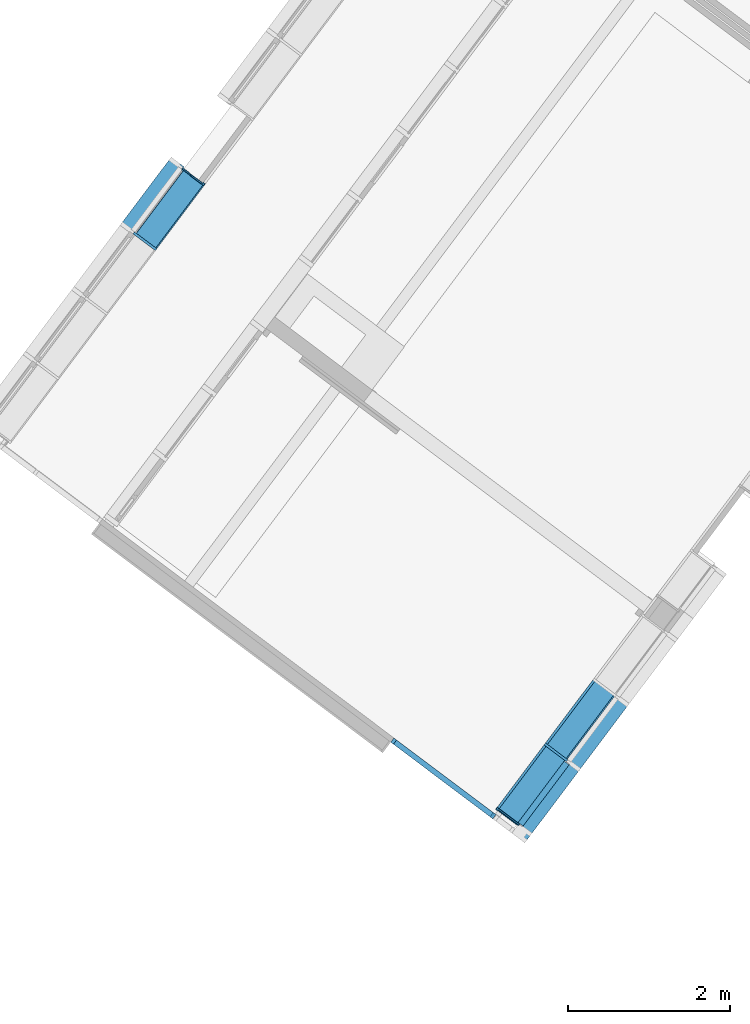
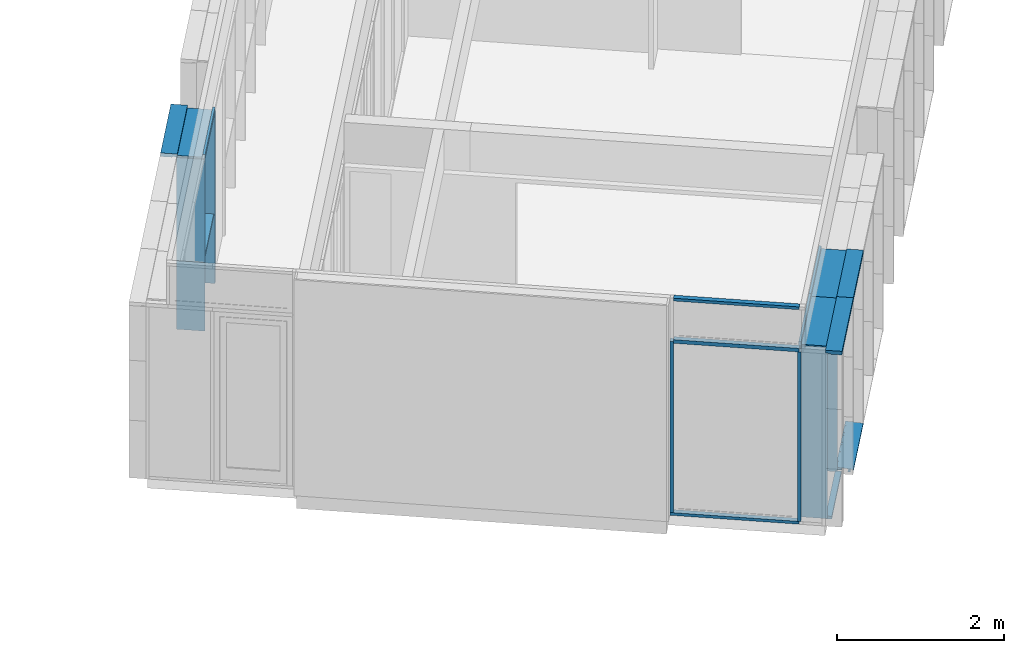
# One storey, part 5 of 243: 20 members, 5 elements without a shape of their own.
"""IFC2X3 building model written with IfcOpenShell, lengths in metres."""

from ifc_helpers import new_model, entity, si_unit, converted_unit, derived_unit, direction, frame, frame_2d, origin, origin_2d_with_axis, place, context, subcontext, project, spatial, polyline, circle_curve, parameter, trimmed, segment, composite_curve, rectangle, outline, extrude, source, transform, mapped, material, type_object, type_shapes, element, aggregate, save


model = new_model("IFC2X3")

# Units and contexts
model_context = context("Model", 3, precision=1e-05, world=origin(), true_north=direction((6.123031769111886e-17, 1.0)))
body_context = subcontext(model_context, "Body", "Model", "MODEL_VIEW")
ifc_project = project(units=[si_unit("LENGTHUNIT", "METRE"), si_unit("AREAUNIT", "SQUARE_METRE"), si_unit("VOLUMEUNIT", "CUBIC_METRE"), converted_unit("PLANEANGLEUNIT", "DEGREE", entity("IfcRatioMeasure", 0.017453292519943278), si_unit("PLANEANGLEUNIT", "RADIAN"), dimensions=[0, 0, 0, 0, 0, 0, 0]), si_unit("MASSUNIT", "GRAM", prefix="KILO"), derived_unit("MASSDENSITYUNIT", [(si_unit("MASSUNIT", "GRAM", prefix="KILO"), 1), (si_unit("LENGTHUNIT", "METRE"), -3)]), derived_unit("IONCONCENTRATIONUNIT", [(si_unit("MASSUNIT", "GRAM", prefix="KILO"), 1), (si_unit("LENGTHUNIT", "METRE"), -3)]), derived_unit("MOMENTOFINERTIAUNIT", [(si_unit("LENGTHUNIT", "METRE"), 4)]), si_unit("TIMEUNIT", "SECOND"), si_unit("FREQUENCYUNIT", "HERTZ"), si_unit("THERMODYNAMICTEMPERATUREUNIT", "DEGREE_CELSIUS"), derived_unit("THERMALTRANSMITTANCEUNIT", [(si_unit("MASSUNIT", "GRAM", prefix="KILO"), 1), (si_unit("THERMODYNAMICTEMPERATUREUNIT", "KELVIN"), -1), (si_unit("TIMEUNIT", "SECOND"), -3)]), derived_unit("THERMALCONDUCTANCEUNIT", [(si_unit("MASSUNIT", "GRAM", prefix="KILO"), 1), (si_unit("THERMODYNAMICTEMPERATUREUNIT", "KELVIN"), -1), (si_unit("TIMEUNIT", "SECOND"), -3), (si_unit("LENGTHUNIT", "METRE"), 1)]), derived_unit("VOLUMETRICFLOWRATEUNIT", [(si_unit("LENGTHUNIT", "METRE"), 3), (si_unit("TIMEUNIT", "SECOND"), -1)]), derived_unit("MASSFLOWRATEUNIT", [(si_unit("MASSUNIT", "GRAM", prefix="KILO"), 1), (si_unit("TIMEUNIT", "SECOND"), -1)]), derived_unit("ROTATIONALFREQUENCYUNIT", [(si_unit("TIMEUNIT", "SECOND"), -1)]), si_unit("ELECTRICCURRENTUNIT", "AMPERE"), si_unit("ELECTRICVOLTAGEUNIT", "VOLT"), si_unit("POWERUNIT", "WATT"), si_unit("FORCEUNIT", "NEWTON", prefix="KILO"), si_unit("ILLUMINANCEUNIT", "LUX"), si_unit("LUMINOUSFLUXUNIT", "LUMEN"), si_unit("LUMINOUSINTENSITYUNIT", "CANDELA"), derived_unit("USERDEFINED", [(si_unit("MASSUNIT", "GRAM", prefix="KILO"), -1), (si_unit("LENGTHUNIT", "METRE"), -2), (si_unit("TIMEUNIT", "SECOND"), 3), (si_unit("LUMINOUSFLUXUNIT", "LUMEN"), 1)]), derived_unit("USERDEFINED", [(si_unit("MASSUNIT", "GRAM", prefix="KILO"), 1), (si_unit("TIMEUNIT", "SECOND"), -3), (si_unit("LENGTHUNIT", "METRE"), 3), (si_unit("ELECTRICCURRENTUNIT", "AMPERE"), -2)]), derived_unit("SOUNDPOWERUNIT", [(si_unit("MASSUNIT", "GRAM", prefix="KILO"), 1), (si_unit("TIMEUNIT", "SECOND"), -3), (si_unit("LENGTHUNIT", "METRE"), 2)]), derived_unit("SOUNDPRESSUREUNIT", [(si_unit("MASSUNIT", "GRAM", prefix="KILO"), 1), (si_unit("LENGTHUNIT", "METRE"), -1), (si_unit("TIMEUNIT", "SECOND"), -2)]), derived_unit("LINEARVELOCITYUNIT", [(si_unit("LENGTHUNIT", "METRE"), 1), (si_unit("TIMEUNIT", "SECOND"), -1)]), si_unit("PRESSUREUNIT", "PASCAL"), derived_unit("USERDEFINED", [(si_unit("MASSUNIT", "GRAM", prefix="KILO"), 1), (si_unit("LENGTHUNIT", "METRE"), -2), (si_unit("TIMEUNIT", "SECOND"), -2)]), derived_unit("LINEARFORCEUNIT", [(si_unit("MASSUNIT", "GRAM", prefix="KILO"), 1), (si_unit("TIMEUNIT", "SECOND"), -2)]), derived_unit("PLANARFORCEUNIT", [(si_unit("MASSUNIT", "GRAM", prefix="KILO"), 1), (si_unit("LENGTHUNIT", "METRE"), -1), (si_unit("TIMEUNIT", "SECOND"), -2)]), derived_unit("SPECIFICHEATCAPACITYUNIT", [(si_unit("THERMODYNAMICTEMPERATUREUNIT", "KELVIN"), -1), (si_unit("LENGTHUNIT", "METRE"), 2), (si_unit("TIMEUNIT", "SECOND"), -2)]), derived_unit("HEATINGVALUEUNIT", [(si_unit("LENGTHUNIT", "METRE"), 2), (si_unit("TIMEUNIT", "SECOND"), -2)]), derived_unit("VAPORPERMEABILITYUNIT", [(si_unit("LENGTHUNIT", "METRE"), -1), (si_unit("TIMEUNIT", "SECOND"), 1)]), derived_unit("DYNAMICVISCOSITYUNIT", [(si_unit("MASSUNIT", "GRAM", prefix="KILO"), 1), (si_unit("TIMEUNIT", "SECOND"), -1), (si_unit("LENGTHUNIT", "METRE"), -1)]), derived_unit("THERMALEXPANSIONCOEFFICIENTUNIT", [(si_unit("THERMODYNAMICTEMPERATUREUNIT", "KELVIN"), -1)]), derived_unit("MODULUSOFELASTICITYUNIT", [(si_unit("MASSUNIT", "GRAM", prefix="KILO"), 1), (si_unit("LENGTHUNIT", "METRE"), -1), (si_unit("TIMEUNIT", "SECOND"), -2)]), derived_unit("ISOTHERMALMOISTURECAPACITYUNIT", [(si_unit("LENGTHUNIT", "METRE"), 3), (si_unit("MASSUNIT", "GRAM", prefix="KILO"), -1)]), derived_unit("MOISTUREDIFFUSIVITYUNIT", [(si_unit("TIMEUNIT", "SECOND"), -1), (si_unit("LENGTHUNIT", "METRE"), 2)])], contexts=[model_context])

# Site, building, storey
site_placement = place(None, frame((0.0, 0.0, 235.0), z_axis=(0.0, 0.0, 1.0), x_axis=(-0.7996477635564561, 0.6004693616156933, 0.0)))
site = spatial("IfcSite", under=ifc_project, at=site_placement, Name="Default", CompositionType="ELEMENT")
building_placement = place(site_placement, origin())
building = spatial("IfcBuilding", under=site, at=building_placement, CompositionType="ELEMENT")
storey_placement = place(building_placement, origin())
storey = spatial("IfcBuildingStorey", under=building, at=storey_placement, Name="P0- Escola", CompositionType="ELEMENT", Elevation=0.0)

# Curtain wall, members
curtain_wall_type_1 = type_object("IfcCurtainWallType", Name="Muro cortina:MC- EXT- MC2", PredefinedType="NOTDEFINED")
curtain_wall_1_placement = place(storey_placement, origin())
curtain_wall_1 = element("IfcCurtainWall", 1, at=curtain_wall_1_placement, inside=storey, type_object=curtain_wall_type_1, Name="Muro cortina:MC- EXT- MC2", ObjectType="Muro cortina:MC- EXT- MC2")
ifc_material_1 = material(Name="_Alumini- T1- Perfil")
member_type_1 = type_object("IfcMemberType", Name="Montante rectangular:MC- Alu- 140x52,5 cm- Fa patis- Superior", PredefinedType="MULLION", material=ifc_material_1)
shared_shape_1 = source(origin(), body_context, "Body", "SweptSolid", [
    extrude(outline(polyline([(-0.11366666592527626, -0.021249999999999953), (0.026333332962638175, -0.021249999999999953), (0.026333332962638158, -0.010000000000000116), (0.0873333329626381, -0.010000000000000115), (0.0873333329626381, 0.03125000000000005), (-0.11366666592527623, 0.031250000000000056), (-0.11366666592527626, -0.021249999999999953)])), frame((-0.031250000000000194, 0.0273333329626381, -1.0), z_axis=(0.0, 0.0, 1.0), x_axis=(0.0, -1.0, 0.0)), (0.0, 0.0, 1.0), 0.9999999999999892),
])
type_shapes(member_type_1, [shared_shape_1])
member_1_placement = place(curtain_wall_1_placement, frame((41.04514768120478, -22.41519175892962, 2.545), z_axis=(0.0, -1.0, 0.0), x_axis=(0.0, 0.0, 1.0)))
member_1 = element("IfcMember", 2, at=member_1_placement, type_object=member_type_1, material=ifc_material_1, Name="Montante rectangular:MC- Alu- 140x52,5 cm- Fa patis- Superior", ObjectType="Montante rectangular:MC- Alu- 140x52,5 cm- Fa patis- Superior", context=body_context, shape_type="MappedRepresentation", body=[
    mapped(shared_shape_1, transform((0.0, 0.0, 0.0), scale=1.0)),
])
member_type_2 = type_object("IfcMemberType", Name="Montante rectangular:MC- Alu- 140x52,5 cm- Fa patis- inferior", PredefinedType="MULLION", material=ifc_material_1)
shared_shape_2 = source(origin(), body_context, "Body", "SweptSolid", [
    extrude(outline(composite_curve([segment(polyline([(0.1278672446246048, -0.02586710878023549), (0.14416724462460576, -0.025867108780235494)]), True, "CONTINUOUS"), segment(polyline([(0.14416724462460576, -0.025867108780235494), (0.1441672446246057, 0.009132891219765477)]), True, "CONTINUOUS"), segment(polyline([(0.1441672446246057, 0.009132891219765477), (0.06786724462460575, 0.009132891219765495)]), True, "CONTINUOUS"), segment(polyline([(0.06786724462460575, 0.009132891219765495), (0.06786724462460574, -0.021159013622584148)]), True, "CONTINUOUS"), segment(polyline([(0.06786724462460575, -0.02115901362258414), (-0.030132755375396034, -0.012332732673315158)]), True, "CONTINUOUS"), segment(polyline([(-0.03013275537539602, -0.012332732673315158), (-0.030132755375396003, 0.027132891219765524)]), True, "CONTINUOUS"), segment(polyline([(-0.030132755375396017, 0.02713289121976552), (-0.0021327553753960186, 0.02713289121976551)]), True, "CONTINUOUS"), segment(polyline([(-0.0021327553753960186, 0.027132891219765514), (-0.0021327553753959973, 0.029132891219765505)]), True, "CONTINUOUS"), segment(polyline([(-0.0021327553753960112, 0.029132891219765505), (-0.032132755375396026, 0.029132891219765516)]), True, "CONTINUOUS"), segment(polyline([(-0.032132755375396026, 0.029132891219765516), (-0.03213275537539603, -0.012152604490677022)]), True, "CONTINUOUS"), segment(polyline([(-0.03213275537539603, -0.012152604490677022), (-0.0701327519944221, -0.008730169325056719)]), True, "CONTINUOUS"), segment(polyline([(-0.0701327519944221, -0.008730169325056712), (-0.0701327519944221, 0.005766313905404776)]), True, "CONTINUOUS"), segment(trimmed(circle_curve(frame_2d((-0.0696327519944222, 0.0057663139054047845), x_axis=(-1.0, 0.0)), 0.0004999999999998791), [parameter(269.999999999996)], [parameter(0.0)], True, "PARAMETER"), False, "CONTINUOUS"), segment(polyline([(-0.0696327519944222, 0.00626631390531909), (-0.06213275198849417, 0.006266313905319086)]), True, "CONTINUOUS"), segment(polyline([(-0.06213275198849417, 0.006266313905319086), (-0.06213275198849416, 0.008266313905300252)]), True, "CONTINUOUS"), segment(polyline([(-0.06213275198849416, 0.008266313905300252), (-0.07013275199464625, 0.008266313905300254)]), True, "CONTINUOUS"), segment(trimmed(circle_curve(frame_2d((-0.07013275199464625, 0.006266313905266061), x_axis=(0.0, 1.0)), 0.0020000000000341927), [parameter(0.0)], [parameter(90.00000002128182)], True, "PARAMETER"), True, "CONTINUOUS"), segment(polyline([(-0.07213275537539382, 0.006266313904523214), (-0.07213275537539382, -0.008730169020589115)]), True, "CONTINUOUS"), segment(trimmed(circle_curve(frame_2d((-0.07013275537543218, -0.008730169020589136), x_axis=(-1.0, 0.0)), 0.0019999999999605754), [parameter(0.0)], [parameter(84.85359280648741)], True, "PARAMETER"), True, "CONTINUOUS"), segment(polyline([(-0.07031215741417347, -0.01072210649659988), (0.06786724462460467, -0.023167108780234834)]), True, "CONTINUOUS"), segment(polyline([(0.06786724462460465, -0.023167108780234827), (0.12786724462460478, -0.023167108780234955)]), True, "CONTINUOUS"), segment(polyline([(0.12786724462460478, -0.023167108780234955), (0.1278672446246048, -0.02586710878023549)]), True, "CONTINUOUS")], self_intersect=False)), frame((-0.029132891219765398, 0.06786724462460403, -0.9737499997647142), z_axis=(0.0, 0.0, 1.0), x_axis=(0.0, -1.0, 0.0)), (0.0, 0.0, 1.0), 0.9737499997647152),
])
type_shapes(member_type_2, [shared_shape_2])
member_2_placement = place(curtain_wall_1_placement, frame((41.04514768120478, -21.441441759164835, -0.02), z_axis=(0.0, 1.0, 0.0), x_axis=(0.0, 0.0, -1.0)))
member_2 = element("IfcMember", 3, at=member_2_placement, type_object=member_type_2, material=ifc_material_1, Name="Montante rectangular:MC- Alu- 140x52,5 cm- Fa patis- inferior", ObjectType="Montante rectangular:MC- Alu- 140x52,5 cm- Fa patis- inferior", context=body_context, shape_type="MappedRepresentation", body=[
    mapped(shared_shape_2, transform((0.0, 0.0, 0.0), scale=1.0)),
])

curtain_wall_type_2 = type_object("IfcCurtainWallType", Name="Muro cortina:MC- INT- k7- Aules infantil", PredefinedType="NOTDEFINED")
curtain_wall_2_placement = place(storey_placement, origin())
curtain_wall_2 = element("IfcCurtainWall", 4, at=curtain_wall_2_placement, inside=storey, type_object=curtain_wall_type_2, Name="Muro cortina:MC- INT- k7- Aules infantil", ObjectType="Muro cortina:MC- INT- k7- Aules infantil")
ifc_material_2 = material(Name="_Fusta massisa- T1")
member_type_3 = type_object("IfcMemberType", Name="Montante rectangular:MC- Fusta- 35x3 cm- Pati aules- Remat esquerra", PredefinedType="MULLION", material=ifc_material_2)
shared_shape_3 = source(origin(), body_context, "Body", "SweptSolid", [
    extrude(outline(polyline([(-0.22000000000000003, -0.01666666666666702), (0.12500000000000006, -0.01666666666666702), (0.125, 0.013333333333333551), (0.09500000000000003, 0.013333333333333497), (0.09500000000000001, 0.003333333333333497), (-0.22000000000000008, 0.003333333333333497), (-0.22000000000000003, -0.01666666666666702)])), frame((-0.013333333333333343, 0.03000000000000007, -2.504999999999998), z_axis=(0.0, 0.0, 1.0), x_axis=(0.0, -1.0, 0.0)), (0.0, 0.0, 1.0), 2.5049999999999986),
])
type_shapes(member_type_3, [shared_shape_3])
member_3_placement = place(curtain_wall_2_placement, frame((41.34514768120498, -20.405191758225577, 2.5049999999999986), z_axis=(0.0, 0.0, 1.0), x_axis=(0.0, 1.0, 0.0)))
member_3 = element("IfcMember", 5, at=member_3_placement, type_object=member_type_3, material=ifc_material_2, Name="Montante rectangular:MC- Fusta- 35x3 cm- Pati aules- Remat esquerra", ObjectType="Montante rectangular:MC- Fusta- 35x3 cm- Pati aules- Remat esquerra", context=body_context, shape_type="MappedRepresentation", body=[
    mapped(shared_shape_3, transform((0.0, 0.0, 0.0), scale=1.0)),
])
member_type_4 = type_object("IfcMemberType", Name="Montante rectangular:MC- Fusta- 35x3 cm- Pati aules- Remat superior", PredefinedType="MULLION", material=ifc_material_2)
shared_shape_4 = source(origin(), body_context, "Body", "SweptSolid", [
    extrude(outline(polyline([(-0.21333333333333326, -0.02666666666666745), (0.1216666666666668, -0.02666666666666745), (0.12166666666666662, 0.03333333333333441), (0.09166666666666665, 0.03333333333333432), (0.09166666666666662, -0.006666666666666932), (-0.2133333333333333, -0.006666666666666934), (-0.21333333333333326, -0.02666666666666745)])), frame((-0.033333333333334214, 0.026666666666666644, -1.0100000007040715), z_axis=(0.0, 0.0, 1.0), x_axis=(0.0, -1.0, 0.0)), (0.0, 0.0, 1.0), 1.0100000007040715),
])
type_shapes(member_type_4, [shared_shape_4])
member_4_placement = place(curtain_wall_2_placement, frame((41.34514768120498, -21.415191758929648, 2.565), z_axis=(0.0, -1.0, 0.0), x_axis=(0.0, 0.0, 1.0)))
member_4 = element("IfcMember", 6, at=member_4_placement, type_object=member_type_4, material=ifc_material_2, Name="Montante rectangular:MC- Fusta- 35x3 cm- Pati aules- Remat superior", ObjectType="Montante rectangular:MC- Fusta- 35x3 cm- Pati aules- Remat superior", context=body_context, shape_type="MappedRepresentation", body=[
    mapped(shared_shape_4, transform((0.0, 0.0, 0.0), scale=1.0)),
])
member_type_5 = type_object("IfcMemberType", Name="Montante rectangular:MC- Fusta- 35x3 cm- Centre", PredefinedType="MULLION", material=ifc_material_2)
shared_shape_5 = source(origin(), body_context, "Body", "SweptSolid", [
    extrude(rectangle(XDim=0.3450000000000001, YDim=0.030000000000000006, at=frame_2d((0.0, 1.3964523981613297e-16), x_axis=(1.0, 0.0))), frame((0.0, 0.07750000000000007, -2.5049999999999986), z_axis=(0.0, 0.0, 1.0), x_axis=(0.0, -1.0, 0.0)), (0.0, 0.0, 1.0), 2.5049999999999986),
])
type_shapes(member_type_5, [shared_shape_5])
member_5_placement = place(curtain_wall_2_placement, frame((41.34514768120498, -21.415191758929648, 0.0), z_axis=(0.0, 0.0, -1.0), x_axis=(0.0, -1.0, 0.0)))
member_5 = element("IfcMember", 7, at=member_5_placement, type_object=member_type_5, material=ifc_material_2, Name="Montante rectangular:MC- Fusta- 35x3 cm- Centre", ObjectType="Montante rectangular:MC- Fusta- 35x3 cm- Centre", context=body_context, shape_type="MappedRepresentation", body=[
    mapped(shared_shape_5, transform((0.0, 0.0, 0.0), scale=1.0)),
])
member_type_6 = type_object("IfcMemberType", Name="Montante rectangular:MC- Fusta- 35x3 cm- Pati aules- Remat superior", PredefinedType="MULLION", material=ifc_material_2)
shared_shape_6 = source(origin(), body_context, "Body", "SweptSolid", [
    extrude(outline(polyline([(-0.21333333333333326, -0.02666666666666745), (0.1216666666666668, -0.02666666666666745), (0.12166666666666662, 0.03333333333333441), (0.09166666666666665, 0.03333333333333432), (0.09166666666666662, -0.006666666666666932), (-0.2133333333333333, -0.006666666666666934), (-0.21333333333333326, -0.02666666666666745)])), frame((-0.033333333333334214, 0.026666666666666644, -1.0), z_axis=(0.0, 0.0, 1.0), x_axis=(0.0, -1.0, 0.0)), (0.0, 0.0, 1.0), 0.9999999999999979),
])
type_shapes(member_type_6, [shared_shape_6])
member_6_placement = place(curtain_wall_2_placement, frame((41.34514768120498, -22.415191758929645, 2.565), z_axis=(0.0, -1.0, 0.0), x_axis=(0.0, 0.0, 1.0)))
member_6 = element("IfcMember", 8, at=member_6_placement, type_object=member_type_6, material=ifc_material_2, Name="Montante rectangular:MC- Fusta- 35x3 cm- Pati aules- Remat superior", ObjectType="Montante rectangular:MC- Fusta- 35x3 cm- Pati aules- Remat superior", context=body_context, shape_type="MappedRepresentation", body=[
    mapped(shared_shape_6, transform((0.0, 0.0, 0.0), scale=1.0)),
])
aggregate(curtain_wall_2, [member_3, member_4, member_5, member_6])

curtain_wall_type_3 = type_object("IfcCurtainWallType", Name="Muro cortina:MC- INT- k2", PredefinedType="NOTDEFINED")
curtain_wall_3_placement = place(storey_placement, origin())
curtain_wall_3 = element("IfcCurtainWall", 9, at=curtain_wall_3_placement, inside=storey, type_object=curtain_wall_type_3, Name="Muro cortina:MC- INT- k2", ObjectType="Muro cortina:MC- INT- k2")
member_type_7 = type_object("IfcMemberType", Name="Montante rectangular:MC- Fusta- 35x3 cm- Centre", PredefinedType="MULLION", material=ifc_material_2)
shared_shape_7 = source(origin(), body_context, "Body", "SweptSolid", [
    extrude(rectangle(XDim=0.3450000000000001, YDim=0.030000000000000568, at=frame_2d((0.0, -1.3964523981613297e-16), x_axis=(1.0, 0.0))), frame((0.0, -0.07750000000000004, -1.0), z_axis=(0.0, 0.0, 1.0), x_axis=(0.0, -1.0, 0.0)), (0.0, 0.0, 1.0), 1.0),
])
type_shapes(member_type_7, [shared_shape_7])
member_7_placement = place(curtain_wall_3_placement, frame((49.045147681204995, -23.415191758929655, 0.0), z_axis=(0.0, 0.0, -1.0), x_axis=(0.0, -1.0, 0.0)))
member_7 = element("IfcMember", 10, at=member_7_placement, type_object=member_type_7, material=ifc_material_2, Name="Montante rectangular:MC- Fusta- 35x3 cm- Centre", ObjectType="Montante rectangular:MC- Fusta- 35x3 cm- Centre", context=body_context, shape_type="MappedRepresentation", body=[
    mapped(shared_shape_7, transform((0.0, 0.0, 0.0), scale=1.0)),
])
member_type_8 = type_object("IfcMemberType", Name="Montante rectangular:MC- Fusta- 35x3 cm- Pati aules- Remat superior", PredefinedType="MULLION", material=ifc_material_2)
shared_shape_8 = source(origin(), body_context, "Body", "SweptSolid", [
    extrude(outline(polyline([(-0.12166666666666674, -0.02666666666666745), (0.21333333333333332, -0.02666666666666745), (0.2133333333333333, -0.006666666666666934), (-0.09166666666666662, -0.006666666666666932), (-0.09166666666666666, 0.03333333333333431), (-0.12166666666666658, 0.03333333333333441), (-0.12166666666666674, -0.02666666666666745)])), frame((-0.033333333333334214, -0.026666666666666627, -1.0), z_axis=(0.0, 0.0, 1.0), x_axis=(0.0, -1.0, 0.0)), (0.0, 0.0, 1.0), 0.9999999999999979),
])
type_shapes(member_type_8, [shared_shape_8])
member_8_placement = place(curtain_wall_3_placement, frame((49.045147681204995, -24.415191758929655, 2.565), z_axis=(0.0, -1.0, 0.0), x_axis=(0.0, 0.0, 1.0)))
member_8 = element("IfcMember", 11, at=member_8_placement, type_object=member_type_8, material=ifc_material_2, Name="Montante rectangular:MC- Fusta- 35x3 cm- Pati aules- Remat superior", ObjectType="Montante rectangular:MC- Fusta- 35x3 cm- Pati aules- Remat superior", context=body_context, shape_type="MappedRepresentation", body=[
    mapped(shared_shape_8, transform((0.0, 0.0, 0.0), scale=1.0)),
])
member_type_9 = type_object("IfcMemberType", Name="Montante rectangular:MC- Fusta- 35x3 cm- Pati aules- Remat dreta", PredefinedType="MULLION", material=ifc_material_2)
shared_shape_9 = source(origin(), body_context, "Body", "SweptSolid", [
    extrude(outline(polyline([(-0.12500000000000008, -0.01666666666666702), (0.22, -0.01666666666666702), (0.22000000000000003, 0.003333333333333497), (-0.09499999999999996, 0.003333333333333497), (-0.09499999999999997, 0.013333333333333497), (-0.12500000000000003, 0.013333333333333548), (-0.12500000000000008, -0.01666666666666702)])), frame((0.00166666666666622, -0.03000000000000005, -1.0), z_axis=(0.0, 0.0, 1.0), x_axis=(0.0, -1.0, 0.0)), (0.0, 0.0, 1.0), 1.0),
])
type_shapes(member_type_9, [shared_shape_9])
member_9_placement = place(curtain_wall_3_placement, frame((49.045147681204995, -24.415191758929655, 0.0), z_axis=(0.0, 0.0, -1.0), x_axis=(0.0, -1.0, 0.0)))
member_9 = element("IfcMember", 12, at=member_9_placement, type_object=member_type_9, material=ifc_material_2, Name="Montante rectangular:MC- Fusta- 35x3 cm- Pati aules- Remat dreta", ObjectType="Montante rectangular:MC- Fusta- 35x3 cm- Pati aules- Remat dreta", context=body_context, shape_type="MappedRepresentation", body=[
    mapped(shared_shape_9, transform((0.0, 0.0, 0.0), scale=1.0)),
])
member_type_10 = type_object("IfcMemberType", Name="Montante rectangular:MC- Fusta- 35x3 cm- Pati aules- Prestatge", PredefinedType="MULLION", material=ifc_material_2)
shared_shape_10 = source(origin(), body_context, "Body", "SweptSolid", [
    extrude(rectangle(XDim=0.30000000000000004, YDim=0.03000000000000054, at=frame_2d((0.0, -1.231653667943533e-16), x_axis=(1.0, 0.0))), frame((0.0, -0.07000000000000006, -0.9699999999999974), z_axis=(0.0, 0.0, 1.0), x_axis=(0.0, -1.0, 0.0)), (0.0, 0.0, 1.0), 0.969999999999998),
])
type_shapes(member_type_10, [shared_shape_10])
member_10_placement = place(curtain_wall_3_placement, frame((49.045147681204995, -24.400191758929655, 1.0), z_axis=(0.0, -1.0, 0.0), x_axis=(0.0, 0.0, 1.0)))
member_10 = element("IfcMember", 13, at=member_10_placement, type_object=member_type_10, material=ifc_material_2, Name="Montante rectangular:MC- Fusta- 35x3 cm- Pati aules- Prestatge", ObjectType="Montante rectangular:MC- Fusta- 35x3 cm- Pati aules- Prestatge", context=body_context, shape_type="MappedRepresentation", body=[
    mapped(shared_shape_10, transform((0.0, 0.0, 0.0), scale=1.0)),
])
member_type_11 = type_object("IfcMemberType", Name="Montante rectangular:MC- Fusta- 35x3 cm- Centre", PredefinedType="MULLION", material=ifc_material_2)
shared_shape_11 = source(origin(), body_context, "Body", "SweptSolid", [
    extrude(rectangle(XDim=0.3450000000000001, YDim=0.030000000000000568, at=frame_2d((0.0, -1.3964523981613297e-16), x_axis=(1.0, 0.0))), frame((0.0, -0.07750000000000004, -1.504999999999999), z_axis=(0.0, 0.0, 1.0), x_axis=(0.0, -1.0, 0.0)), (0.0, 0.0, 1.0), 1.504999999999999),
])
type_shapes(member_type_11, [shared_shape_11])
member_11_placement = place(curtain_wall_3_placement, frame((49.045147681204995, -23.415191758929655, 1.0), z_axis=(0.0, 0.0, -1.0), x_axis=(0.0, -1.0, 0.0)))
member_11 = element("IfcMember", 14, at=member_11_placement, type_object=member_type_11, material=ifc_material_2, Name="Montante rectangular:MC- Fusta- 35x3 cm- Centre", ObjectType="Montante rectangular:MC- Fusta- 35x3 cm- Centre", context=body_context, shape_type="MappedRepresentation", body=[
    mapped(shared_shape_11, transform((0.0, 0.0, 0.0), scale=1.0)),
])
member_type_12 = type_object("IfcMemberType", Name="Montante rectangular:MC- Fusta- 35x3 cm- Pati aules- Remat dreta", PredefinedType="MULLION", material=ifc_material_2)
shared_shape_12 = source(origin(), body_context, "Body", "SweptSolid", [
    extrude(outline(polyline([(-0.12500000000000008, -0.01666666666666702), (0.22, -0.01666666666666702), (0.22000000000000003, 0.003333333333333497), (-0.09499999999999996, 0.003333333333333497), (-0.09499999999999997, 0.013333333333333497), (-0.12500000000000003, 0.013333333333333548), (-0.12500000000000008, -0.01666666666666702)])), frame((0.00166666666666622, -0.03000000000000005, -1.504999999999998), z_axis=(0.0, 0.0, 1.0), x_axis=(0.0, -1.0, 0.0)), (0.0, 0.0, 1.0), 1.504999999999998),
])
type_shapes(member_type_12, [shared_shape_12])
member_12_placement = place(curtain_wall_3_placement, frame((49.045147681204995, -24.415191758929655, 1.0), z_axis=(0.0, 0.0, -1.0), x_axis=(0.0, -1.0, 0.0)))
member_12 = element("IfcMember", 15, at=member_12_placement, type_object=member_type_12, material=ifc_material_2, Name="Montante rectangular:MC- Fusta- 35x3 cm- Pati aules- Remat dreta", ObjectType="Montante rectangular:MC- Fusta- 35x3 cm- Pati aules- Remat dreta", context=body_context, shape_type="MappedRepresentation", body=[
    mapped(shared_shape_12, transform((0.0, 0.0, 0.0), scale=1.0)),
])
aggregate(curtain_wall_3, [member_7, member_8, member_9, member_10, member_11, member_12])

# Member
member_type_13 = type_object("IfcMemberType", Name="Montante rectangular:MC- Alu- 140x52,5 cm- Fa patis- inferior porta", PredefinedType="MULLION", material=ifc_material_1)
shared_shape_13 = source(origin(), body_context, "Body", "SweptSolid", [
    extrude(rectangle(XDim=0.07629999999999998, YDim=0.04, at=origin_2d_with_axis()), frame((-0.020000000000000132, -0.0381500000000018, -0.9474999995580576), z_axis=(0.0, 0.0, 1.0), x_axis=(0.0, -1.0, 0.0)), (0.0, 0.0, 1.0), 0.9474999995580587),
])
type_shapes(member_type_13, [shared_shape_13])
member_13_placement = place(curtain_wall_1_placement, frame((41.04514768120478, -20.441441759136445, -0.02), z_axis=(0.0, 1.0, 0.0), x_axis=(0.0, 0.0, -1.0)))
member_13 = element("IfcMember", 16, at=member_13_placement, type_object=member_type_13, material=ifc_material_1, Name="Montante rectangular:MC- Alu- 140x52,5 cm- Fa patis- inferior porta", ObjectType="Montante rectangular:MC- Alu- 140x52,5 cm- Fa patis- inferior porta", context=body_context, shape_type="MappedRepresentation", body=[
    mapped(shared_shape_13, transform((0.0, 0.0, 0.0), scale=1.0)),
])

member_type_14 = type_object("IfcMemberType", Name="Montante rectangular:MC- Alu- 140x52,5 cm- Fa patis- Superior", PredefinedType="MULLION", material=ifc_material_1)
shared_shape_14 = source(origin(), body_context, "Body", "SweptSolid", [
    extrude(outline(polyline([(-0.11366666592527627, -0.021249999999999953), (0.02633333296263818, -0.021249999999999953), (0.02633333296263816, -0.010000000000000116), (0.08733333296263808, -0.010000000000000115), (0.08733333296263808, 0.03125000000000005), (-0.11366666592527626, 0.031250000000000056), (-0.11366666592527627, -0.021249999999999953)])), frame((-0.031250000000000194, 0.027333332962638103, -1.1262500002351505), z_axis=(0.0, 0.0, 1.0), x_axis=(0.0, -1.0, 0.0)), (0.0, 0.0, 1.0), 1.1262500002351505),
])
type_shapes(member_type_14, [shared_shape_14])
member_14_placement = place(curtain_wall_1_placement, frame((41.04514768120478, -21.41519175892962, 2.545), z_axis=(0.0, -1.0, 0.0), x_axis=(0.0, 0.0, 1.0)))
member_14 = element("IfcMember", 17, at=member_14_placement, type_object=member_type_14, material=ifc_material_1, Name="Montante rectangular:MC- Alu- 140x52,5 cm- Fa patis- Superior", ObjectType="Montante rectangular:MC- Alu- 140x52,5 cm- Fa patis- Superior", context=body_context, shape_type="MappedRepresentation", body=[
    mapped(shared_shape_14, transform((0.0, 0.0, 0.0), scale=1.0)),
])

aggregate(curtain_wall_1, [member_13, member_14, member_2, member_1])

# Curtain wall, member
curtain_wall_type_4 = type_object("IfcCurtainWallType", Name="Muro cortina:MC- EXT- MC5", PredefinedType="NOTDEFINED")
curtain_wall_4_placement = place(storey_placement, origin())
curtain_wall_4 = element("IfcCurtainWall", 18, at=curtain_wall_4_placement, inside=storey, type_object=curtain_wall_type_4, Name="Muro cortina:MC- EXT- MC5", ObjectType="Muro cortina:MC- EXT- MC5")
member_type_15 = type_object("IfcMemberType", Name="Montante rectangular:MC- Alu- 140x52,5 cm- Fa patis- Superior", PredefinedType="MULLION", material=ifc_material_1)
shared_shape_15 = source(origin(), body_context, "Body", "SweptSolid", [
    extrude(outline(polyline([(-0.026333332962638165, -0.021249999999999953), (0.11366666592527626, -0.021249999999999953), (0.11366666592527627, 0.031250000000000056), (-0.08733333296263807, 0.03125000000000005), (-0.0873333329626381, -0.010000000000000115), (-0.026333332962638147, -0.010000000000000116), (-0.026333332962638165, -0.021249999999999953)])), frame((-0.031250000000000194, -0.02733333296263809, -1.0262500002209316), z_axis=(0.0, 0.0, 1.0), x_axis=(0.0, -1.0, 0.0)), (0.0, 0.0, 1.0), 1.0262500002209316),
])
type_shapes(member_type_15, [shared_shape_15])
member_15_placement = place(curtain_wall_4_placement, frame((49.345147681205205, -24.441441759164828, 2.545), z_axis=(0.0, -1.0, 0.0), x_axis=(0.0, 0.0, 1.0)))
member_15 = element("IfcMember", 19, at=member_15_placement, type_object=member_type_15, material=ifc_material_1, Name="Montante rectangular:MC- Alu- 140x52,5 cm- Fa patis- Superior", ObjectType="Montante rectangular:MC- Alu- 140x52,5 cm- Fa patis- Superior", context=body_context, shape_type="MappedRepresentation", body=[
    mapped(shared_shape_15, transform((0.0, 0.0, 0.0), scale=1.0)),
])
aggregate(curtain_wall_4, [member_15])

# Curtain wall, members
curtain_wall_type_5 = type_object("IfcCurtainWallType", Name="Muro cortina:MC- EXT- AL1- Fa porxo", PredefinedType="NOTDEFINED")
curtain_wall_5_placement = place(storey_placement, origin())
curtain_wall_5 = element("IfcCurtainWall", 20, at=curtain_wall_5_placement, inside=storey, type_object=curtain_wall_type_5, Name="Muro cortina:MC- EXT- AL1- Fa porxo", ObjectType="Muro cortina:MC- EXT- AL1- Fa porxo")
member_type_16 = type_object("IfcMemberType", Name="Montante rectangular:MC- Alu- 65x41 cm- Fa Porxo- Centre", PredefinedType="MULLION", material=ifc_material_1)
shared_shape_16 = source(origin(), body_context, "Body", "SweptSolid", [
    extrude(rectangle(XDim=0.06500000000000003, YDim=0.041000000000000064, at=origin_2d_with_axis()), frame((-0.02050000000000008, 0.03249999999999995, -1.5144959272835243), z_axis=(0.0, 0.0, 1.0), x_axis=(0.0, -1.0, 0.0)), (0.0, 0.0, 1.0), 1.5144959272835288),
])
type_shapes(member_type_16, [shared_shape_16])
member_16_placement = place(curtain_wall_5_placement, frame((42.934143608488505, -20.288941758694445, 3.150000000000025), z_axis=(1.0, 0.0, 0.0), x_axis=(0.0, 0.0, 1.0)))
member_16 = element("IfcMember", 21, at=member_16_placement, type_object=member_type_16, material=ifc_material_1, Name="Montante rectangular:MC- Alu- 65x41 cm- Fa Porxo- Centre", ObjectType="Montante rectangular:MC- Alu- 65x41 cm- Fa Porxo- Centre", context=body_context, shape_type="MappedRepresentation", body=[
    mapped(shared_shape_16, transform((0.0, 0.0, 0.0), scale=1.0)),
])
member_type_17 = type_object("IfcMemberType", Name="Montante rectangular:MC- Alu- 65x41 cm- Fa Porxo- Centre", PredefinedType="MULLION", material=ifc_material_1)
shared_shape_17 = source(origin(), body_context, "Body", "SweptSolid", [
    extrude(rectangle(XDim=0.06500000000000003, YDim=0.041000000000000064, at=origin_2d_with_axis()), frame((-0.02050000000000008, 0.032499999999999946, -2.4977500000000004), z_axis=(0.0, 0.0, 1.0), x_axis=(0.0, -1.0, 0.0)), (0.0, 0.0, 1.0), 2.4977500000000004),
])
type_shapes(member_type_17, [shared_shape_17])
member_17_placement = place(curtain_wall_5_placement, frame((42.9751436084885, -20.288941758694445, 0.021000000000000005), z_axis=(0.0, 0.0, -1.0), x_axis=(1.0, 0.0, 0.0)))
member_17 = element("IfcMember", 22, at=member_17_placement, type_object=member_type_17, material=ifc_material_1, Name="Montante rectangular:MC- Alu- 65x41 cm- Fa Porxo- Centre", ObjectType="Montante rectangular:MC- Alu- 65x41 cm- Fa Porxo- Centre", context=body_context, shape_type="MappedRepresentation", body=[
    mapped(shared_shape_17, transform((0.0, 0.0, 0.0), scale=1.0)),
])
member_type_18 = type_object("IfcMemberType", Name="Montante rectangular:MC- Alu- 65x41 cm- Fa Porxo- Centre", PredefinedType="MULLION", material=ifc_material_1)
shared_shape_18 = source(origin(), body_context, "Body", "SweptSolid", [
    extrude(rectangle(XDim=0.06500000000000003, YDim=0.041000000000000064, at=frame_2d((0.0, 3.469446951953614e-18), x_axis=(1.0, 0.0))), frame((-0.02049999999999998, 0.032499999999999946, -1.5554959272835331), z_axis=(0.0, 0.0, 1.0), x_axis=(0.0, -1.0, 0.0)), (0.0, 0.0, 1.0), 1.5554959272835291),
])
type_shapes(member_type_18, [shared_shape_18])
member_18_placement = place(curtain_wall_5_placement, frame((41.41964768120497, -20.28894175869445, -0.02000000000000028), z_axis=(-1.0, 0.0, 0.0), x_axis=(0.0, 0.0, -1.0)))
member_18 = element("IfcMember", 23, at=member_18_placement, type_object=member_type_18, material=ifc_material_1, Name="Montante rectangular:MC- Alu- 65x41 cm- Fa Porxo- Centre", ObjectType="Montante rectangular:MC- Alu- 65x41 cm- Fa Porxo- Centre", context=body_context, shape_type="MappedRepresentation", body=[
    mapped(shared_shape_18, transform((0.0, 0.0, 0.0), scale=1.0)),
])
member_type_19 = type_object("IfcMemberType", Name="Montante rectangular:MC- Alu- 65x52,5 cm- Fa Porxo- Centre", PredefinedType="MULLION", material=ifc_material_1)
shared_shape_19 = source(origin(), body_context, "Body", "SweptSolid", [
    extrude(rectangle(XDim=0.06500000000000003, YDim=0.053000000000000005, at=frame_2d((3.469446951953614e-18, 5.204170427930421e-18), x_axis=(1.0, 0.0))), frame((0.0, 0.03249999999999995, -1.5144959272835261), z_axis=(0.0, 0.0, 1.0), x_axis=(0.0, -1.0, 0.0)), (0.0, 0.0, 1.0), 1.5144959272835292),
])
type_shapes(member_type_19, [shared_shape_19])
member_19_placement = place(curtain_wall_5_placement, frame((42.934143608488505, -20.288941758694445, 2.51875), z_axis=(1.0, 0.0, 0.0), x_axis=(0.0, 0.0, 1.0)))
member_19 = element("IfcMember", 24, at=member_19_placement, type_object=member_type_19, material=ifc_material_1, Name="Montante rectangular:MC- Alu- 65x52,5 cm- Fa Porxo- Centre", ObjectType="Montante rectangular:MC- Alu- 65x52,5 cm- Fa Porxo- Centre", context=body_context, shape_type="MappedRepresentation", body=[
    mapped(shared_shape_19, transform((0.0, 0.0, 0.0), scale=1.0)),
])
member_type_20 = type_object("IfcMemberType", Name="Montante rectangular:MC- Alu- 65x41 cm- Fa Porxo- Centre", PredefinedType="MULLION", material=ifc_material_1)
shared_shape_20 = source(origin(), body_context, "Body", "SweptSolid", [
    extrude(rectangle(XDim=0.06500000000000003, YDim=0.04100000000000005, at=frame_2d((3.469446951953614e-18, 6.938893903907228e-18), x_axis=(1.0, 0.0))), frame((0.0, 0.03249999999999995, -2.4712500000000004), z_axis=(0.0, 0.0, 1.0), x_axis=(0.0, -1.0, 0.0)), (0.0, 0.0, 1.0), 2.4712500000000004),
])
type_shapes(member_type_20, [shared_shape_20])
member_20_placement = place(curtain_wall_5_placement, frame((41.41964768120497, -20.28894175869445, 0.020999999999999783), z_axis=(0.0, 0.0, -1.0), x_axis=(1.0, 0.0, 0.0)))
member_20 = element("IfcMember", 25, at=member_20_placement, type_object=member_type_20, material=ifc_material_1, Name="Montante rectangular:MC- Alu- 65x41 cm- Fa Porxo- Centre", ObjectType="Montante rectangular:MC- Alu- 65x41 cm- Fa Porxo- Centre", context=body_context, shape_type="MappedRepresentation", body=[
    mapped(shared_shape_20, transform((0.0, 0.0, 0.0), scale=1.0)),
])
aggregate(curtain_wall_5, [member_16, member_17, member_18, member_19, member_20])

save(model, "model.ifc")
